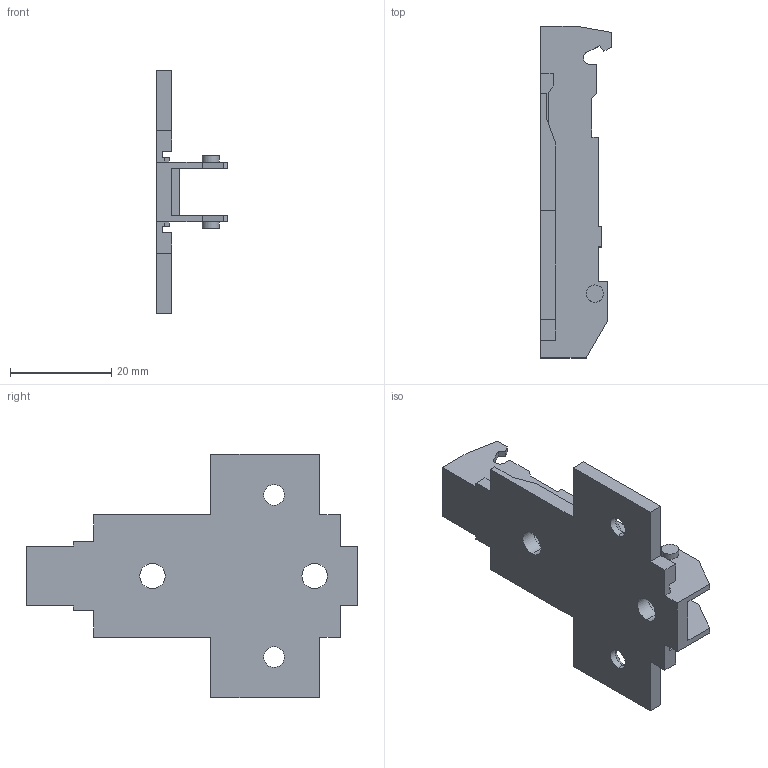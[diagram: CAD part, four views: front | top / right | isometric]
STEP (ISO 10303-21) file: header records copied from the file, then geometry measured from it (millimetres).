
FILE_DESCRIPTION (( 'STEP AP214' ), '1' );
FILE_NAME ('1D_Kreuzmontageplatte 28_32_Spax_3,5.step', '2018-10-02T12:38:32', ( '' ), ( '' ), 'SwSTEP 2.0', 'SolidWorks 2017', '' );
FILE_SCHEMA (( 'AUTOMOTIVE_DESIGN' ));
Length unit declared in the file: millimetre
Products named in the file (1): 1D_Kreuzmontageplatte 28_32_Spax_3,5
Bounding box: 14 x 65.5 x 48 mm (x, y, z)
Volume: 6556.3 mm3; surface area: 7053.4 mm2
Topology: 1 solids, 1 shells, 104 faces, 296 edges, 196 vertices
Faces by surface type: plane 82, cylinder 18, cone 4
Entity records: 3398 total; most frequent: CARTESIAN_POINT 597, ORIENTED_EDGE 592, DIRECTION 546, EDGE_CURVE 296, LINE 256, VECTOR 256, VERTEX_POINT 196, AXIS2_PLACEMENT_3D 145
